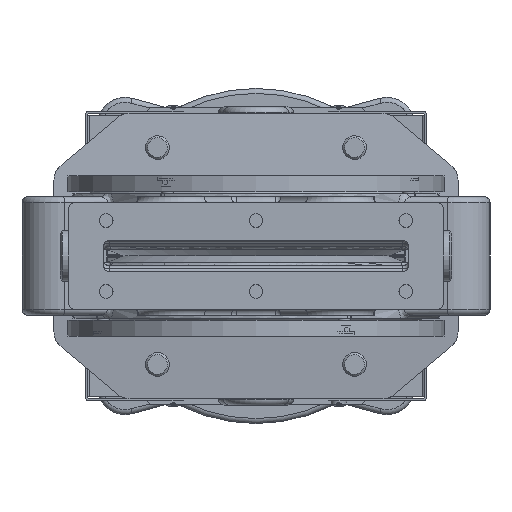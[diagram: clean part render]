
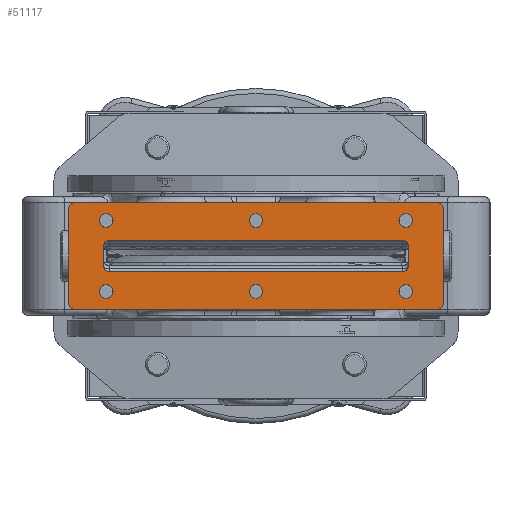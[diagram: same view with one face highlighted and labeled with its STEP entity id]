
A CAD part, front view. The second image highlights one B-rep face of the part: STEP entity #51117.
In plain terms, the highlighted planar face has unit normal (0, -1, 0).
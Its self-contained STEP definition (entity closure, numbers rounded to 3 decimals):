
#2978=FACE_BOUND('',#9715,.T.);
#2979=FACE_BOUND('',#9716,.T.);
#2980=FACE_BOUND('',#9717,.T.);
#2981=FACE_BOUND('',#9718,.T.);
#2982=FACE_BOUND('',#9719,.T.);
#2983=FACE_BOUND('',#9720,.T.);
#2984=FACE_BOUND('',#9721,.T.);
#3920=PLANE('',#57025);
#6524=FACE_OUTER_BOUND('',#9714,.T.);
#9714=EDGE_LOOP('',(#43221,#43222,#43223,#43224,#43225,#43226,#43227,#43228));
#9715=EDGE_LOOP('',(#43229));
#9716=EDGE_LOOP('',(#43230));
#9717=EDGE_LOOP('',(#43231));
#9718=EDGE_LOOP('',(#43232));
#9719=EDGE_LOOP('',(#43233));
#9720=EDGE_LOOP('',(#43234));
#9721=EDGE_LOOP('',(#43235,#43236,#43237,#43238,#43239,#43240,#43241,#43242));
#12996=CIRCLE('',#56800,3.);
#12998=CIRCLE('',#56803,3.);
#13000=CIRCLE('',#56806,3.);
#13002=CIRCLE('',#56809,3.);
#13071=CIRCLE('',#56917,3.);
#13113=CIRCLE('',#57026,3.5);
#13114=CIRCLE('',#57027,3.5);
#13115=CIRCLE('',#57028,3.5);
#13116=CIRCLE('',#57029,3.5);
#13117=CIRCLE('',#57030,3.5);
#13118=CIRCLE('',#57031,3.5);
#13119=CIRCLE('',#57032,3.);
#13120=CIRCLE('',#57033,3.);
#13121=CIRCLE('',#57034,3.);
#15463=LINE('',#102819,#17946);
#15466=LINE('',#102830,#17949);
#15682=LINE('',#123804,#18165);
#15684=LINE('',#123807,#18167);
#15686=LINE('',#123813,#18169);
#15724=LINE('',#123911,#18207);
#15725=LINE('',#123926,#18208);
#15726=LINE('',#123930,#18209);
#17946=VECTOR('',#69558,1.);
#17949=VECTOR('',#69567,1.);
#18165=VECTOR('',#70819,1.);
#18167=VECTOR('',#70823,1.);
#18169=VECTOR('',#70829,1.);
#18207=VECTOR('',#70943,1.);
#18208=VECTOR('',#70958,1.);
#18209=VECTOR('',#70961,1.);
#22249=VERTEX_POINT('',#102816);
#22250=VERTEX_POINT('',#102818);
#22254=VERTEX_POINT('',#102827);
#22255=VERTEX_POINT('',#102829);
#22547=VERTEX_POINT('',#119211);
#22549=VERTEX_POINT('',#119215);
#22551=VERTEX_POINT('',#119220);
#22553=VERTEX_POINT('',#119224);
#22555=VERTEX_POINT('',#119229);
#22557=VERTEX_POINT('',#119233);
#22559=VERTEX_POINT('',#119238);
#22561=VERTEX_POINT('',#119242);
#22659=VERTEX_POINT('',#123141);
#22760=VERTEX_POINT('',#123912);
#22761=VERTEX_POINT('',#123914);
#22762=VERTEX_POINT('',#123916);
#22763=VERTEX_POINT('',#123918);
#22764=VERTEX_POINT('',#123920);
#22765=VERTEX_POINT('',#123922);
#22766=VERTEX_POINT('',#123924);
#22767=VERTEX_POINT('',#123927);
#22768=VERTEX_POINT('',#123929);
#29006=EDGE_CURVE('',#22249,#22250,#15463,.T.);
#29011=EDGE_CURVE('',#22254,#22255,#15466,.T.);
#29436=EDGE_CURVE('',#22547,#22549,#12996,.F.);
#29440=EDGE_CURVE('',#22551,#22553,#12998,.F.);
#29444=EDGE_CURVE('',#22555,#22557,#13000,.F.);
#29448=EDGE_CURVE('',#22559,#22561,#13002,.F.);
#29595=EDGE_CURVE('',#22659,#22250,#13071,.T.);
#29709=EDGE_CURVE('',#22549,#22551,#15682,.T.);
#29711=EDGE_CURVE('',#22557,#22559,#15684,.T.);
#29714=EDGE_CURVE('',#22561,#22547,#15686,.T.);
#29767=EDGE_CURVE('',#22553,#22555,#15724,.T.);
#29768=EDGE_CURVE('',#22760,#22760,#13113,.T.);
#29769=EDGE_CURVE('',#22761,#22761,#13114,.T.);
#29770=EDGE_CURVE('',#22762,#22762,#13115,.T.);
#29771=EDGE_CURVE('',#22763,#22763,#13116,.T.);
#29772=EDGE_CURVE('',#22764,#22764,#13117,.T.);
#29773=EDGE_CURVE('',#22765,#22765,#13118,.T.);
#29774=EDGE_CURVE('',#22254,#22766,#13119,.T.);
#29775=EDGE_CURVE('',#22766,#22659,#15725,.T.);
#29776=EDGE_CURVE('',#22249,#22767,#13120,.T.);
#29777=EDGE_CURVE('',#22767,#22768,#15726,.T.);
#29778=EDGE_CURVE('',#22768,#22255,#13121,.T.);
#43221=ORIENTED_EDGE('',*,*,#29714,.T.);
#43222=ORIENTED_EDGE('',*,*,#29436,.T.);
#43223=ORIENTED_EDGE('',*,*,#29709,.T.);
#43224=ORIENTED_EDGE('',*,*,#29440,.T.);
#43225=ORIENTED_EDGE('',*,*,#29767,.T.);
#43226=ORIENTED_EDGE('',*,*,#29444,.T.);
#43227=ORIENTED_EDGE('',*,*,#29711,.T.);
#43228=ORIENTED_EDGE('',*,*,#29448,.T.);
#43229=ORIENTED_EDGE('',*,*,#29768,.T.);
#43230=ORIENTED_EDGE('',*,*,#29769,.T.);
#43231=ORIENTED_EDGE('',*,*,#29770,.T.);
#43232=ORIENTED_EDGE('',*,*,#29771,.T.);
#43233=ORIENTED_EDGE('',*,*,#29772,.T.);
#43234=ORIENTED_EDGE('',*,*,#29773,.T.);
#43235=ORIENTED_EDGE('',*,*,#29011,.F.);
#43236=ORIENTED_EDGE('',*,*,#29774,.T.);
#43237=ORIENTED_EDGE('',*,*,#29775,.T.);
#43238=ORIENTED_EDGE('',*,*,#29595,.T.);
#43239=ORIENTED_EDGE('',*,*,#29006,.F.);
#43240=ORIENTED_EDGE('',*,*,#29776,.T.);
#43241=ORIENTED_EDGE('',*,*,#29777,.T.);
#43242=ORIENTED_EDGE('',*,*,#29778,.T.);
#51117=ADVANCED_FACE('',(#6524,#2978,#2979,#2980,#2981,#2982,#2983,#2984),
#3920,.F.);
#56800=AXIS2_PLACEMENT_3D('',#119217,#70329,#70330);
#56803=AXIS2_PLACEMENT_3D('',#119226,#70337,#70338);
#56806=AXIS2_PLACEMENT_3D('',#119235,#70345,#70346);
#56809=AXIS2_PLACEMENT_3D('',#119244,#70353,#70354);
#56917=AXIS2_PLACEMENT_3D('',#123155,#70616,#70617);
#57025=AXIS2_PLACEMENT_3D('',#123910,#70941,#70942);
#57026=AXIS2_PLACEMENT_3D('',#123913,#70944,#70945);
#57027=AXIS2_PLACEMENT_3D('',#123915,#70946,#70947);
#57028=AXIS2_PLACEMENT_3D('',#123917,#70948,#70949);
#57029=AXIS2_PLACEMENT_3D('',#123919,#70950,#70951);
#57030=AXIS2_PLACEMENT_3D('',#123921,#70952,#70953);
#57031=AXIS2_PLACEMENT_3D('',#123923,#70954,#70955);
#57032=AXIS2_PLACEMENT_3D('',#123925,#70956,#70957);
#57033=AXIS2_PLACEMENT_3D('',#123928,#70959,#70960);
#57034=AXIS2_PLACEMENT_3D('',#123931,#70962,#70963);
#69558=DIRECTION('',(0.,0.,-1.));
#69567=DIRECTION('',(0.,0.,1.));
#70329=DIRECTION('center_axis',(0.,1.,0.));
#70330=DIRECTION('ref_axis',(0.,0.,-1.));
#70337=DIRECTION('center_axis',(0.,1.,0.));
#70338=DIRECTION('ref_axis',(0.,0.,-1.));
#70345=DIRECTION('center_axis',(0.,1.,0.));
#70346=DIRECTION('ref_axis',(0.,0.,-1.));
#70353=DIRECTION('center_axis',(0.,1.,0.));
#70354=DIRECTION('ref_axis',(0.,0.,-1.));
#70616=DIRECTION('center_axis',(0.,1.,0.));
#70617=DIRECTION('ref_axis',(0.,0.,-1.));
#70819=DIRECTION('',(-1.,0.,0.));
#70823=DIRECTION('',(1.,0.,0.));
#70829=DIRECTION('',(0.,0.,1.));
#70941=DIRECTION('center_axis',(0.,1.,0.));
#70942=DIRECTION('ref_axis',(0.,0.,1.));
#70943=DIRECTION('',(0.,0.,-1.));
#70944=DIRECTION('center_axis',(0.,1.,0.));
#70945=DIRECTION('ref_axis',(0.,0.,1.));
#70946=DIRECTION('center_axis',(0.,1.,0.));
#70947=DIRECTION('ref_axis',(0.,0.,1.));
#70948=DIRECTION('center_axis',(0.,1.,0.));
#70949=DIRECTION('ref_axis',(0.,0.,1.));
#70950=DIRECTION('center_axis',(0.,1.,0.));
#70951=DIRECTION('ref_axis',(0.,0.,1.));
#70952=DIRECTION('center_axis',(0.,1.,0.));
#70953=DIRECTION('ref_axis',(0.,0.,1.));
#70954=DIRECTION('center_axis',(0.,1.,0.));
#70955=DIRECTION('ref_axis',(0.,0.,1.));
#70956=DIRECTION('center_axis',(0.,1.,0.));
#70957=DIRECTION('ref_axis',(0.,0.,-1.));
#70958=DIRECTION('',(-1.,0.,0.));
#70959=DIRECTION('center_axis',(0.,1.,0.));
#70960=DIRECTION('ref_axis',(0.,0.,-1.));
#70961=DIRECTION('',(1.,0.,0.));
#70962=DIRECTION('center_axis',(0.,1.,0.));
#70963=DIRECTION('ref_axis',(0.,0.,-1.));
#102816=CARTESIAN_POINT('',(-77.5,-123.5,5.));
#102818=CARTESIAN_POINT('',(-77.5,-123.5,-5.));
#102819=CARTESIAN_POINT('',(-77.5,-123.5,5.));
#102827=CARTESIAN_POINT('',(77.5,-123.5,-5.));
#102829=CARTESIAN_POINT('',(77.5,-123.5,5.));
#102830=CARTESIAN_POINT('',(77.5,-123.5,-5.));
#119211=CARTESIAN_POINT('',(95.,-123.5,24.));
#119215=CARTESIAN_POINT('',(92.,-123.5,27.));
#119217=CARTESIAN_POINT('Origin',(92.,-123.5,24.));
#119220=CARTESIAN_POINT('',(-92.,-123.5,27.));
#119224=CARTESIAN_POINT('',(-95.,-123.5,24.));
#119226=CARTESIAN_POINT('Origin',(-92.,-123.5,24.));
#119229=CARTESIAN_POINT('',(-95.,-123.5,-24.));
#119233=CARTESIAN_POINT('',(-92.,-123.5,-27.));
#119235=CARTESIAN_POINT('Origin',(-92.,-123.5,-24.));
#119238=CARTESIAN_POINT('',(92.,-123.5,-27.));
#119242=CARTESIAN_POINT('',(95.,-123.5,-24.));
#119244=CARTESIAN_POINT('Origin',(92.,-123.5,-24.));
#123141=CARTESIAN_POINT('',(-74.5,-123.5,-8.));
#123155=CARTESIAN_POINT('Origin',(-74.5,-123.5,-5.));
#123804=CARTESIAN_POINT('',(95.,-123.5,27.));
#123807=CARTESIAN_POINT('',(-95.,-123.5,-27.));
#123813=CARTESIAN_POINT('',(95.,-123.5,-27.));
#123910=CARTESIAN_POINT('Origin',(85.5,-123.5,-13.));
#123911=CARTESIAN_POINT('',(-95.,-123.5,27.));
#123912=CARTESIAN_POINT('',(-76.,-123.5,-14.5));
#123913=CARTESIAN_POINT('Origin',(-76.,-123.5,-18.));
#123914=CARTESIAN_POINT('',(-76.,-123.5,21.5));
#123915=CARTESIAN_POINT('Origin',(-76.,-123.5,18.));
#123916=CARTESIAN_POINT('',(76.,-123.5,-14.5));
#123917=CARTESIAN_POINT('Origin',(76.,-123.5,-18.));
#123918=CARTESIAN_POINT('',(76.,-123.5,21.5));
#123919=CARTESIAN_POINT('Origin',(76.,-123.5,18.));
#123920=CARTESIAN_POINT('',(0.,-123.5,21.5));
#123921=CARTESIAN_POINT('Origin',(0.,-123.5,
18.));
#123922=CARTESIAN_POINT('',(0.,-123.5,-14.5));
#123923=CARTESIAN_POINT('Origin',(0.,-123.5,
-18.));
#123924=CARTESIAN_POINT('',(74.5,-123.5,-8.));
#123925=CARTESIAN_POINT('Origin',(74.5,-123.5,-5.));
#123926=CARTESIAN_POINT('',(77.5,-123.5,-8.));
#123927=CARTESIAN_POINT('',(-74.5,-123.5,8.));
#123928=CARTESIAN_POINT('Origin',(-74.5,-123.5,5.));
#123929=CARTESIAN_POINT('',(74.5,-123.5,8.));
#123930=CARTESIAN_POINT('',(-77.5,-123.5,8.));
#123931=CARTESIAN_POINT('Origin',(74.5,-123.5,5.));
